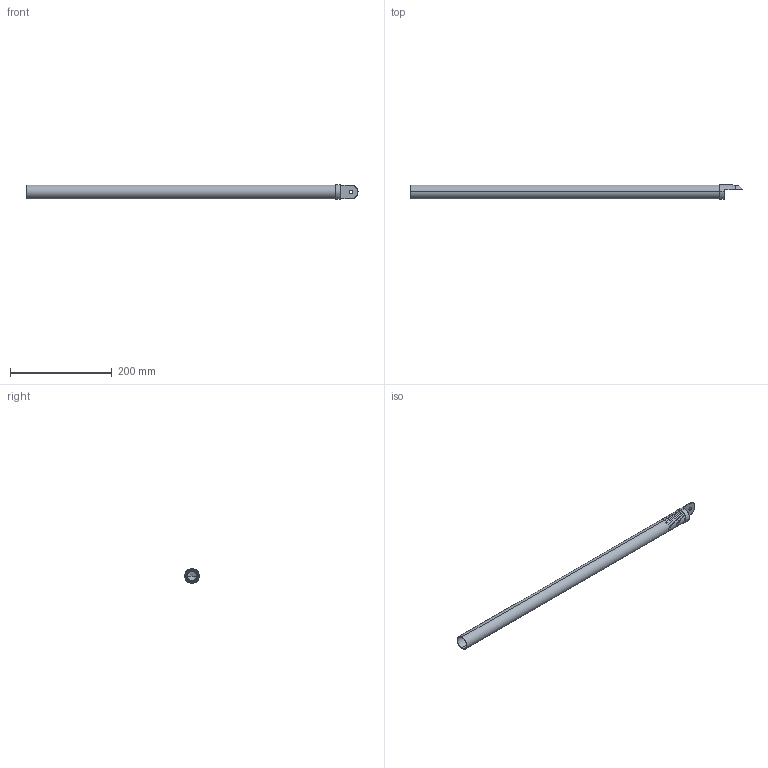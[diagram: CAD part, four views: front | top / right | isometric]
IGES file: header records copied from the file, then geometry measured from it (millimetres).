
Start section: SolidWorks IGES file using analytic representation for surfaces
Global section: file name: \\SERVER3\Design\_New Design Drive Folder List\_Design Vault\AAI\Modular Round Tube Connectors\Solidworks Models\Demonstrations\25. Assemblies\Modular Connectors\1. End Connectors\End Connectors Solid Models\Single Sided Clevis Connector.IGS; native system: SolidWorks 2013; preprocessor: SolidWorks 2013; author: tbraun; date: 130819.103725; units: inch
Bounding box: 653.96 x 28.57 x 28.57 mm (x, y, z)
Surface area: 113593.4 mm2 (no closed solid volume)
Topology: 0 solids, 0 shells, 229 faces, 3044 edges, 3042 vertices
Faces by surface type: bspline 116, revolution 113
